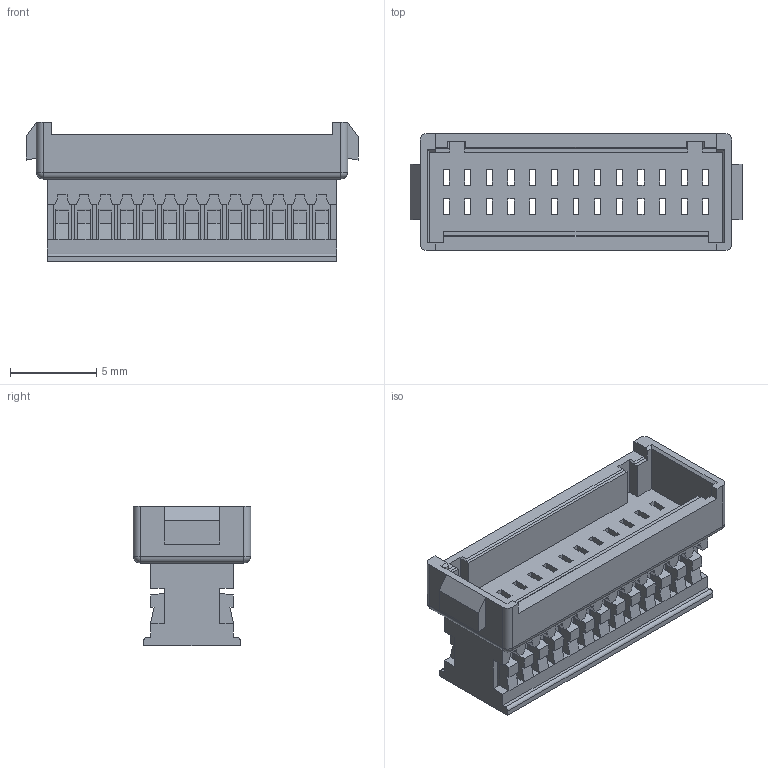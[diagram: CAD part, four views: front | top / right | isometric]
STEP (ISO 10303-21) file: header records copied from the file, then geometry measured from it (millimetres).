
FILE_DESCRIPTION(/* description */ (''),/* implementation_level */ '2;1');
FILE_NAME(/* name */ 'HC-1.25-2x13EYJ-05（1.25 单排 母孔座 带钩-HCTL）.stp',/* time_stamp */ '2026-10-22T11:12:04+08:00',/* author */ (''),/* organization */ (''),/* preprocessor_version */ 'ST-DEVELOPER v16',/* originating_system */ 'SIEMENS PLM Software NX 10.0',/* authorisation */ '');
FILE_SCHEMA (('AUTOMOTIVE_DESIGN { 1 0 10303 214 3 1 1 1 }'));
Length unit declared in the file: millimetre
Products named in the file (1): HC-1.25-2x6EYJ-05（1.25 单排 母孔座 
带钩-HCTL）_stp
Bounding box: 19.23 x 6.8 x 8.1 mm (x, y, z)
Volume: 333.5 mm3; surface area: 1402.7 mm2
Topology: 1 solids, 1 shells, 815 faces, 2340 edges, 1498 vertices
Faces by surface type: plane 801, cylinder 10, sphere 4
Entity records: 26078 total; most frequent: ORIENTED_EDGE 4672, CARTESIAN_POINT 4650, DIRECTION 3988, EDGE_CURVE 2336, LINE 2316, VECTOR 2316, VERTEX_POINT 1498, EDGE_LOOP 894
